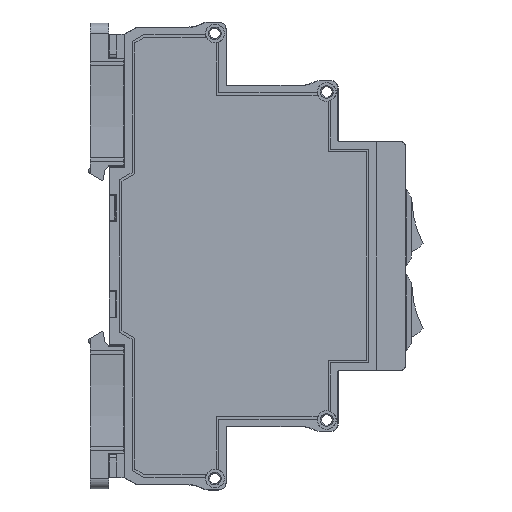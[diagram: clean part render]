
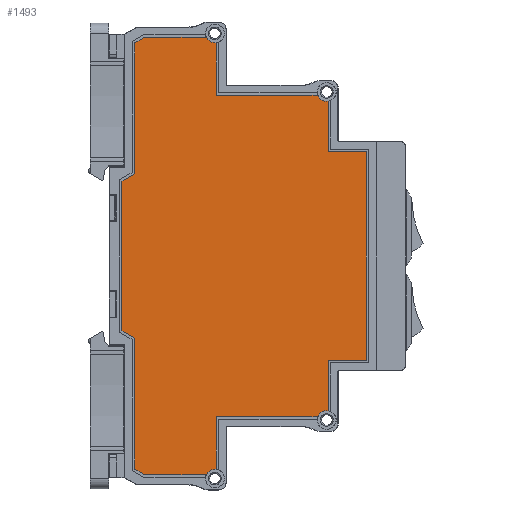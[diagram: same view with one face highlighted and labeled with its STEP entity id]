
A CAD part, front view. The second image highlights one B-rep face of the part: STEP entity #1493.
In plain terms, the highlighted planar face has unit normal (0, -1, 0) as drawn and (1, 0, 0) by its records, which use the part's own axes.
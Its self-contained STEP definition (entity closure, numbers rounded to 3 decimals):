
#1493=ADVANCED_FACE('',(#19970),#19972,.T.);
#19970=FACE_BOUND('',#19971,.T.);
#19971=EDGE_LOOP('',(#34168,#34169,#34170,#34171,#34172,#34173,#34174,#34175,#34176,
#34177,#34178,#34179,#34180,#34181,#34182,#34183,#34184,#34185,#34186,#34187,#34188,
#34189));
#19972=PLANE('',#19973);
#19973=AXIS2_PLACEMENT_3D('',#19974,#19975,#19976);
#19974=CARTESIAN_POINT('',(6.5,0.,0.));
#19975=DIRECTION('',(1.,0.,0.));
#19976=DIRECTION('',(0.,0.,-1.));
#34168=ORIENTED_EDGE('',*,*,#47355,.F.);
#34169=ORIENTED_EDGE('',*,*,#47356,.T.);
#34170=ORIENTED_EDGE('',*,*,#47273,.F.);
#34171=ORIENTED_EDGE('',*,*,#47357,.T.);
#34172=ORIENTED_EDGE('',*,*,#47358,.T.);
#34173=ORIENTED_EDGE('',*,*,#47359,.T.);
#34174=ORIENTED_EDGE('',*,*,#47360,.T.);
#34175=ORIENTED_EDGE('',*,*,#47361,.T.);
#34176=ORIENTED_EDGE('',*,*,#47257,.F.);
#34177=ORIENTED_EDGE('',*,*,#47362,.F.);
#34178=ORIENTED_EDGE('',*,*,#47363,.T.);
#34179=ORIENTED_EDGE('',*,*,#47267,.F.);
#34180=ORIENTED_EDGE('',*,*,#47364,.T.);
#34181=ORIENTED_EDGE('',*,*,#47365,.F.);
#34182=ORIENTED_EDGE('',*,*,#47366,.T.);
#34183=ORIENTED_EDGE('',*,*,#47367,.T.);
#34184=ORIENTED_EDGE('',*,*,#47368,.T.);
#34185=ORIENTED_EDGE('',*,*,#47369,.T.);
#34186=ORIENTED_EDGE('',*,*,#47370,.T.);
#34187=ORIENTED_EDGE('',*,*,#47371,.F.);
#34188=ORIENTED_EDGE('',*,*,#47372,.T.);
#34189=ORIENTED_EDGE('',*,*,#47283,.F.);
#47257=EDGE_CURVE('',#52983,#52968,#52985,.T.);
#47267=EDGE_CURVE('',#53003,#52988,#53005,.T.);
#47273=EDGE_CURVE('',#53015,#53017,#53018,.T.);
#47283=EDGE_CURVE('',#53035,#53037,#53038,.T.);
#47355=EDGE_CURVE('',#53176,#53035,#53177,.T.);
#47356=EDGE_CURVE('',#53176,#53017,#53178,.T.);
#47357=EDGE_CURVE('',#53015,#53179,#53180,.T.);
#47358=EDGE_CURVE('',#53179,#53181,#53182,.T.);
#47359=EDGE_CURVE('',#53181,#53183,#53184,.T.);
#47360=EDGE_CURVE('',#53183,#53185,#53186,.T.);
#47361=EDGE_CURVE('',#53185,#52968,#53187,.T.);
#47362=EDGE_CURVE('',#53188,#52983,#53189,.T.);
#47363=EDGE_CURVE('',#53188,#52988,#53190,.T.);
#47364=EDGE_CURVE('',#53003,#53191,#53192,.T.);
#47365=EDGE_CURVE('',#53193,#53191,#53194,.T.);
#47366=EDGE_CURVE('',#53193,#53195,#53196,.T.);
#47367=EDGE_CURVE('',#53195,#53197,#53198,.T.);
#47368=EDGE_CURVE('',#53197,#53199,#53200,.T.);
#47369=EDGE_CURVE('',#53199,#53201,#53202,.T.);
#47370=EDGE_CURVE('',#53201,#53203,#53204,.T.);
#47371=EDGE_CURVE('',#53205,#53203,#53206,.T.);
#47372=EDGE_CURVE('',#53205,#53037,#53207,.T.);
#52968=VERTEX_POINT('',#63117);
#52983=VERTEX_POINT('',#63150);
#52985=CIRCLE('',#63154,1.85);
#52988=VERTEX_POINT('',#63163);
#53003=VERTEX_POINT('',#63196);
#53005=CIRCLE('',#63200,1.85);
#53015=VERTEX_POINT('',#63224);
#53017=VERTEX_POINT('',#63228);
#53018=CIRCLE('',#63229,1.85);
#53035=VERTEX_POINT('',#63270);
#53037=VERTEX_POINT('',#63274);
#53038=CIRCLE('',#63275,1.85);
#53176=VERTEX_POINT('',#63579);
#53177=LINE('',#63580,#63581);
#53178=LINE('',#63583,#63584);
#53179=VERTEX_POINT('',#63586);
#53180=LINE('',#63587,#63588);
#53181=VERTEX_POINT('',#63590);
#53182=LINE('',#63591,#63592);
#53183=VERTEX_POINT('',#63594);
#53184=LINE('',#63595,#63596);
#53185=VERTEX_POINT('',#63598);
#53186=LINE('',#63599,#63600);
#53187=LINE('',#63602,#63603);
#53188=VERTEX_POINT('',#63605);
#53189=LINE('',#63606,#63607);
#53190=LINE('',#63609,#63610);
#53191=VERTEX_POINT('',#63612);
#53192=LINE('',#63613,#63614);
#53193=VERTEX_POINT('',#63616);
#53194=LINE('',#63617,#63618);
#53195=VERTEX_POINT('',#63620);
#53196=LINE('',#63621,#63622);
#53197=VERTEX_POINT('',#63624);
#53198=LINE('',#63625,#63626);
#53199=VERTEX_POINT('',#63628);
#53200=LINE('',#63629,#63630);
#53201=VERTEX_POINT('',#63632);
#53202=LINE('',#63633,#63634);
#53203=VERTEX_POINT('',#63636);
#53204=LINE('',#63637,#63638);
#53205=VERTEX_POINT('',#63640);
#53206=LINE('',#63641,#63642);
#53207=LINE('',#63644,#63645);
#63117=CARTESIAN_POINT('',(6.5,-30.541,38.985));
#63150=CARTESIAN_POINT('',(6.5,-31.7,37.015));
#63154=AXIS2_PLACEMENT_3D('',#63155,#63156,#63157);
#63155=CARTESIAN_POINT('',(6.5,-32.375,38.738));
#63156=DIRECTION('',(1.,0.,0.));
#63157=DIRECTION('',(0.,0.365,-0.931));
#63163=CARTESIAN_POINT('',(6.5,-42.103,16.897));
#63196=CARTESIAN_POINT('',(6.5,-43.2,14.953));
#63200=AXIS2_PLACEMENT_3D('',#63201,#63202,#63203);
#63201=CARTESIAN_POINT('',(6.5,-43.937,16.65));
#63202=DIRECTION('',(1.,0.,0.));
#63203=DIRECTION('',(0.,0.398,-0.917));
#63224=CARTESIAN_POINT('',(6.5,30.541,38.985));
#63228=CARTESIAN_POINT('',(6.5,31.7,37.015));
#63229=AXIS2_PLACEMENT_3D('',#63230,#63231,#63232);
#63230=CARTESIAN_POINT('',(6.5,32.375,38.738));
#63231=DIRECTION('',(1.,0.,0.));
#63232=DIRECTION('',(0.,-0.991,0.134));
#63270=CARTESIAN_POINT('',(6.5,42.103,16.897));
#63274=CARTESIAN_POINT('',(6.5,43.2,14.953));
#63275=AXIS2_PLACEMENT_3D('',#63276,#63277,#63278);
#63276=CARTESIAN_POINT('',(6.5,43.937,16.65));
#63277=DIRECTION('',(1.,0.,0.));
#63278=DIRECTION('',(0.,-0.991,0.134));
#63579=CARTESIAN_POINT('',(6.5,31.7,16.897));
#63580=CARTESIAN_POINT('',(6.5,31.7,16.897));
#63581=VECTOR('',#63582,1.);
#63582=DIRECTION('',(0.,1.,0.));
#63583=CARTESIAN_POINT('',(6.5,31.7,16.897));
#63584=VECTOR('',#63585,1.);
#63585=DIRECTION('',(0.,0.,1.));
#63586=CARTESIAN_POINT('',(6.5,20.6,38.985));
#63587=CARTESIAN_POINT('',(6.5,30.541,38.985));
#63588=VECTOR('',#63589,1.);
#63589=DIRECTION('',(0.,-1.,0.));
#63590=CARTESIAN_POINT('',(6.5,20.6,46.53));
#63591=CARTESIAN_POINT('',(6.5,20.6,38.985));
#63592=VECTOR('',#63593,1.);
#63593=DIRECTION('',(0.,0.,1.));
#63594=CARTESIAN_POINT('',(6.5,-20.6,46.53));
#63595=CARTESIAN_POINT('',(6.5,20.6,46.53));
#63596=VECTOR('',#63597,1.);
#63597=DIRECTION('',(0.,-1.,0.));
#63598=CARTESIAN_POINT('',(6.5,-20.6,38.985));
#63599=CARTESIAN_POINT('',(6.5,-20.6,46.53));
#63600=VECTOR('',#63601,1.);
#63601=DIRECTION('',(0.,0.,-1.));
#63602=CARTESIAN_POINT('',(6.5,-20.6,38.985));
#63603=VECTOR('',#63604,1.);
#63604=DIRECTION('',(0.,-1.,0.));
#63605=CARTESIAN_POINT('',(6.5,-31.7,16.897));
#63606=CARTESIAN_POINT('',(6.5,-31.7,16.897));
#63607=VECTOR('',#63608,1.);
#63608=DIRECTION('',(0.,0.,1.));
#63609=CARTESIAN_POINT('',(6.5,-31.7,16.897));
#63610=VECTOR('',#63611,1.);
#63611=DIRECTION('',(0.,-1.,0.));
#63612=CARTESIAN_POINT('',(6.5,-43.2,2.761));
#63613=CARTESIAN_POINT('',(6.5,-43.2,14.953));
#63614=VECTOR('',#63615,1.);
#63615=DIRECTION('',(0.,0.,-1.));
#63616=CARTESIAN_POINT('',(6.5,-42.068,0.8));
#63617=CARTESIAN_POINT('',(6.5,-42.068,0.8));
#63618=VECTOR('',#63619,1.);
#63619=DIRECTION('',(0.,-0.5,0.866));
#63620=CARTESIAN_POINT('',(6.5,-16.211,0.8));
#63621=CARTESIAN_POINT('',(6.5,-42.068,0.8));
#63622=VECTOR('',#63623,1.);
#63623=DIRECTION('',(0.,1.,0.));
#63624=CARTESIAN_POINT('',(6.5,-14.768,-1.7));
#63625=CARTESIAN_POINT('',(6.5,-16.211,0.8));
#63626=VECTOR('',#63627,1.);
#63627=DIRECTION('',(0.,0.5,-0.866));
#63628=CARTESIAN_POINT('',(6.5,14.768,-1.7));
#63629=CARTESIAN_POINT('',(6.5,-14.768,-1.7));
#63630=VECTOR('',#63631,1.);
#63631=DIRECTION('',(0.,1.,0.));
#63632=CARTESIAN_POINT('',(6.5,16.211,0.8));
#63633=CARTESIAN_POINT('',(6.5,14.768,-1.7));
#63634=VECTOR('',#63635,1.);
#63635=DIRECTION('',(0.,0.5,0.866));
#63636=CARTESIAN_POINT('',(6.5,42.068,0.8));
#63637=CARTESIAN_POINT('',(6.5,16.211,0.8));
#63638=VECTOR('',#63639,1.);
#63639=DIRECTION('',(0.,1.,0.));
#63640=CARTESIAN_POINT('',(6.5,43.2,2.761));
#63641=CARTESIAN_POINT('',(6.5,43.2,2.761));
#63642=VECTOR('',#63643,1.);
#63643=DIRECTION('',(0.,-0.5,-0.866));
#63644=CARTESIAN_POINT('',(6.5,43.2,2.761));
#63645=VECTOR('',#63646,1.);
#63646=DIRECTION('',(0.,0.,1.));
